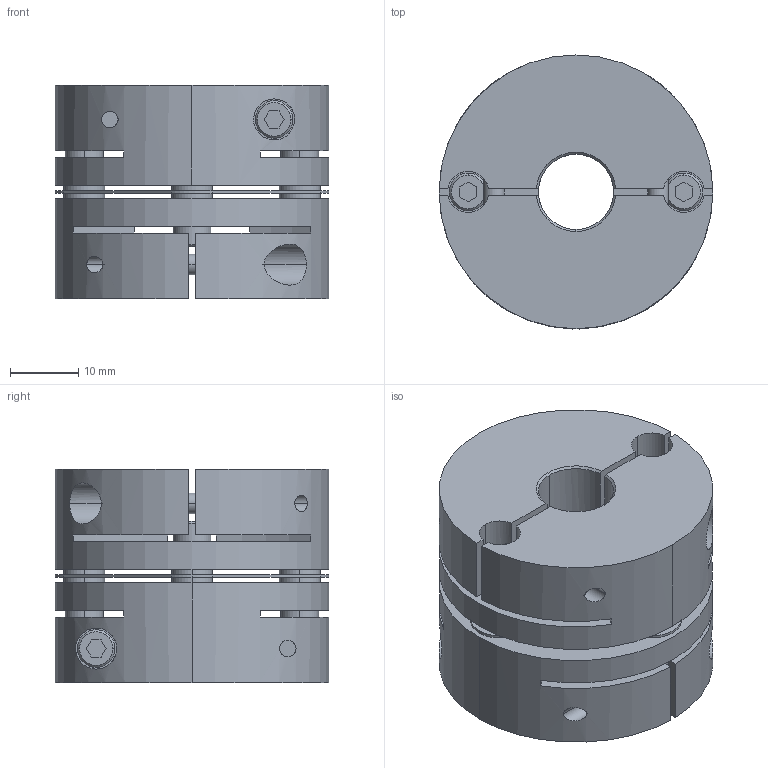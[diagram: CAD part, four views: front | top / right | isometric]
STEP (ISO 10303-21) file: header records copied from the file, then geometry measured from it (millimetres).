
FILE_DESCRIPTION((''),'2;1');
FILE_NAME('LAS-40C-11×20.stp','2011-08-11T08:58:07',(''),(''),'AutoCAD STEP 2000i','AutoCAD 2000i',', , ');
FILE_SCHEMA(('CONFIG_CONTROL_DESIGN'));
Length unit declared in the file: millimetre
Products named in the file (6): LAS-40C-10×15; 忣兜1; LA-4002-D15; LA-4002-D10-1; LA-4002-D10; LAS40-ITA
Assembly tree (5 placements, depth 2):
  LAS-40C-10×15
    忣兜1
    LA-4002-D15
    LA-4002-D10-1
    LA-4002-D10
    LAS40-ITA
Bounding box: 40 x 40 x 31.2 mm (x, y, z)
Volume: 28238.6 mm3; surface area: 15011.1 mm2
Topology: 1 solids, 1 shells, 236 faces, 624 edges, 408 vertices
Faces by surface type: plane 112, cylinder 96, cone 28
Entity records: 8177 total; most frequent: CARTESIAN_POINT 1970, DIRECTION 1304, ORIENTED_EDGE 1248, EDGE_CURVE 624, AXIS2_PLACEMENT_3D 478, VERTEX_POINT 408, VECTOR 348, LINE 348
